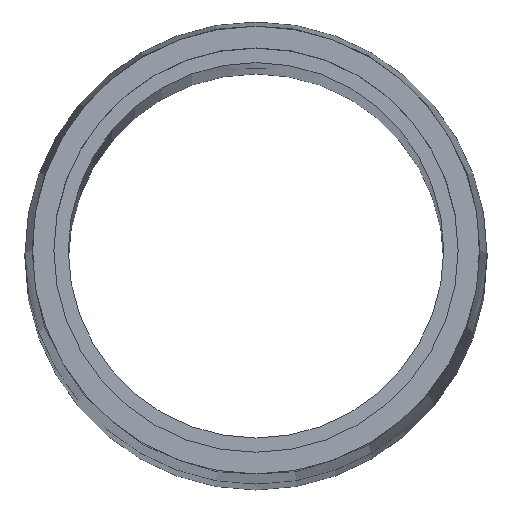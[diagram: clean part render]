
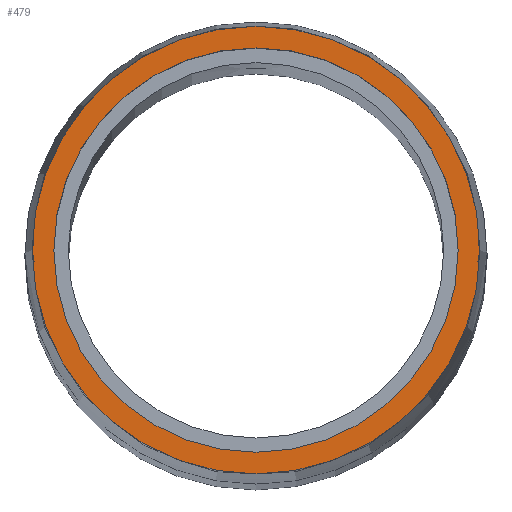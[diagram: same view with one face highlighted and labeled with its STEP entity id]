
A CAD part, top view. The second image highlights one B-rep face of the part: STEP entity #479.
In plain terms, the highlighted planar face has unit normal (0, 0, 1).
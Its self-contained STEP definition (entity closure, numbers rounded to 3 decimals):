
#43 = FACE_OUTER_BOUND ( 'NONE', #323, .T. ) ;
#47 = DIRECTION ( 'NONE',  ( 1., 0., 0. ) ) ;
#50 = ORIENTED_EDGE ( 'NONE', *, *, #196, .F. ) ;
#76 = ORIENTED_EDGE ( 'NONE', *, *, #301, .T. ) ;
#90 = AXIS2_PLACEMENT_3D ( 'NONE', #359, #402, #125 ) ;
#104 = DIRECTION ( 'NONE',  ( 0., 0., 1. ) ) ;
#125 = DIRECTION ( 'NONE',  ( 1., 0., 0. ) ) ;
#162 = ORIENTED_EDGE ( 'NONE', *, *, #522, .T. ) ;
#166 = CARTESIAN_POINT ( 'NONE',  ( -15.5, 0., 235. ) ) ;
#174 = DIRECTION ( 'NONE',  ( 1., 0., 0. ) ) ;
#196 = EDGE_CURVE ( 'NONE', #410, #257, #408, .T. ) ;
#232 = DIRECTION ( 'NONE',  ( 0., 0., 1. ) ) ;
#236 = ORIENTED_EDGE ( 'NONE', *, *, #600, .F. ) ;
#248 = DIRECTION ( 'NONE',  ( 1., 0., 0. ) ) ;
#257 = VERTEX_POINT ( 'NONE', #535 ) ;
#258 = CARTESIAN_POINT ( 'NONE',  ( 15.5, 0., 235. ) ) ;
#259 = CIRCLE ( 'NONE', #299, 15.5 ) ;
#262 = PLANE ( 'NONE',  #396 ) ;
#265 = AXIS2_PLACEMENT_3D ( 'NONE', #432, #104, #248 ) ;
#288 = VERTEX_POINT ( 'NONE', #166 ) ;
#295 = VERTEX_POINT ( 'NONE', #258 ) ;
#299 = AXIS2_PLACEMENT_3D ( 'NONE', #536, #584, #441 ) ;
#301 = EDGE_CURVE ( 'NONE', #288, #295, #259, .T. ) ;
#312 = DIRECTION ( 'NONE',  ( 0., 0., 1. ) ) ;
#318 = CARTESIAN_POINT ( 'NONE',  ( 0., 0., 235. ) ) ;
#323 = EDGE_LOOP ( 'NONE', ( #76, #162 ) ) ;
#352 = AXIS2_PLACEMENT_3D ( 'NONE', #318, #232, #47 ) ;
#353 = CARTESIAN_POINT ( 'NONE',  ( -14., 0., 235. ) ) ;
#359 = CARTESIAN_POINT ( 'NONE',  ( 0., 0., 235. ) ) ;
#396 = AXIS2_PLACEMENT_3D ( 'NONE', #501, #312, #174 ) ;
#402 = DIRECTION ( 'NONE',  ( 0., 0., 1. ) ) ;
#408 = CIRCLE ( 'NONE', #265, 14. ) ;
#410 = VERTEX_POINT ( 'NONE', #353 ) ;
#432 = CARTESIAN_POINT ( 'NONE',  ( 0., 0., 235. ) ) ;
#441 = DIRECTION ( 'NONE',  ( 1., 0., 0. ) ) ;
#456 = FACE_BOUND ( 'NONE', #554, .T. ) ;
#479 = ADVANCED_FACE ( 'NONE', ( #456, #43 ), #262, .T. ) ;
#501 = CARTESIAN_POINT ( 'NONE',  ( 0., 0., 235. ) ) ;
#522 = EDGE_CURVE ( 'NONE', #295, #288, #582, .T. ) ;
#535 = CARTESIAN_POINT ( 'NONE',  ( 14., 0., 235. ) ) ;
#536 = CARTESIAN_POINT ( 'NONE',  ( 0., 0., 235. ) ) ;
#554 = EDGE_LOOP ( 'NONE', ( #236, #50 ) ) ;
#582 = CIRCLE ( 'NONE', #90, 15.5 ) ;
#584 = DIRECTION ( 'NONE',  ( 0., 0., 1. ) ) ;
#590 = CIRCLE ( 'NONE', #352, 14. ) ;
#600 = EDGE_CURVE ( 'NONE', #257, #410, #590, .T. ) ;
